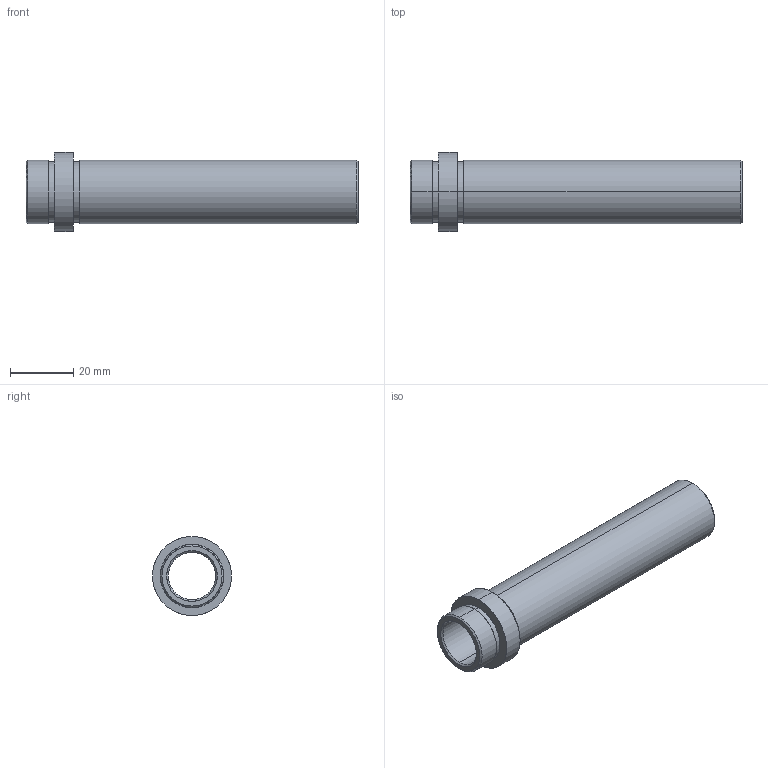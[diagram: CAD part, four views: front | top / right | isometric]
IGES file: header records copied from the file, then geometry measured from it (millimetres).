
Start section: SolidWorks IGES FILE using analytic representation for surfaces
Global section: file name: D:\zzzzz\Delta\D21\15\D21 - 15x96.IGS; native system: SolidWorks 2004 by SolidWorks Corporation; preprocessor: Version 5.3; author: Hkn; date: 080326.191537; units: millimetre
Bounding box: 105 x 25 x 25 mm (x, y, z)
Surface area: 12313.5 mm2 (no closed solid volume)
Topology: 0 solids, 0 shells, 26 faces, 464 edges, 464 vertices
Faces by surface type: revolution 20, bspline 6
